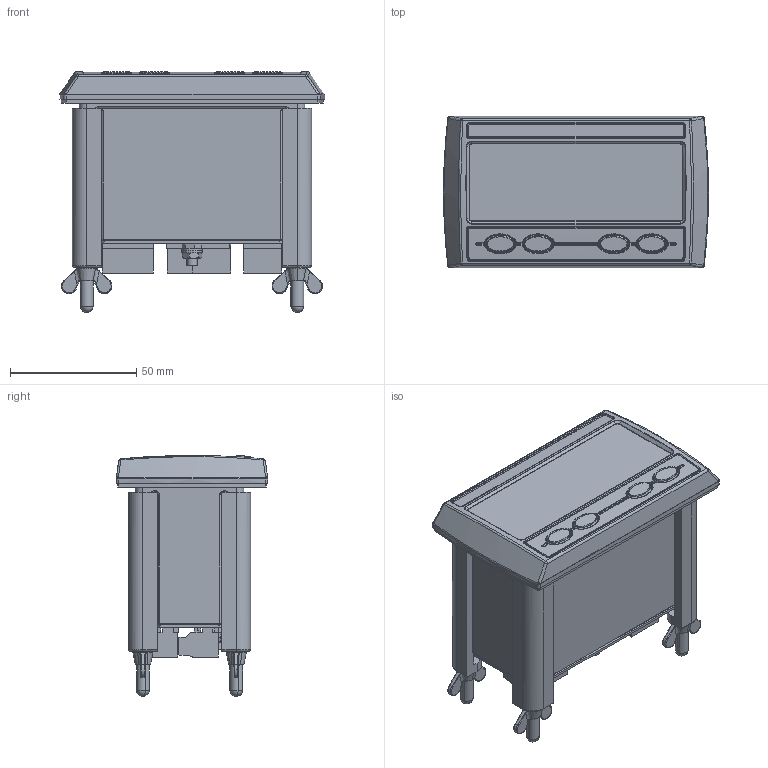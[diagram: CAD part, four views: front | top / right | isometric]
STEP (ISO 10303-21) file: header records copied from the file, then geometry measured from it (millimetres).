
FILE_DESCRIPTION (( 'STEP AP214' ), '1' );
FILE_NAME ('XX7E-SS.STEP', '2019-06-03T15:44:23', ( '' ), ( '' ), 'SwSTEP 2.0', 'SolidWorks 2018', '' );
FILE_SCHEMA (( 'AUTOMOTIVE_DESIGN' ));
Length unit declared in the file: millimetre
Products named in the file (2): XX7E-SS
Bounding box: 105 x 60 x 95.47 mm (x, y, z)
Volume: 300234.2 mm3; surface area: 78568.4 mm2
Topology: 49 solids, 50 shells, 2374 faces, 5931 edges, 3673 vertices
Faces by surface type: plane 1096, cylinder 577, bspline 398, cone 129, torus 101, sphere 73
Entity records: 123229 total; most frequent: CARTESIAN_POINT 43020, ORIENTED_EDGE 11736, DIRECTION 10290, EDGE_CURVE 5868, VERTEX_POINT 3665, AXIS2_PLACEMENT_3D 3568, LINE 3154, VECTOR 3154
